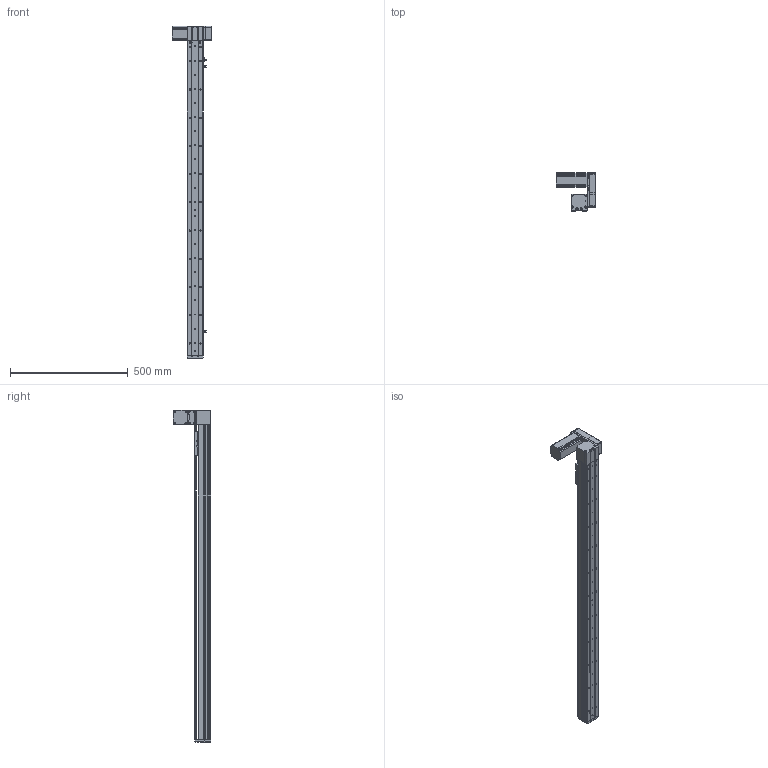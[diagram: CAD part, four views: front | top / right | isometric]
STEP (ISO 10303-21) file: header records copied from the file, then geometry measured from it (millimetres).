
FILE_DESCRIPTION (( 'STEP AP214' ), '1' );
FILE_NAME ('KSD68BS-S1150-MLU-CM.STEP', '2019-11-06T06:55:50', ( '微软用户' ), ( '微软中国' ), 'SwSTEP 2.0', 'SolidWorks 2014', '' );
FILE_SCHEMA (( 'AUTOMOTIVE_DESIGN' ));
Length unit declared in the file: millimetre
Products named in the file (11): 68宽单导轨半封闭同步带主动轮座左; 68单导轨同步带半封闭端板; KSD68BS 1150俴最裔啣圉猾敕; 覜茼え68遵圉猾敕; KSD68BS半封闭同步带传动导轨座; U倰嫖萇EEㄜSX672; 台达ECMA－C20604AS伺服电机（400W); KSD68BS 1150俴最菁啣圉猾敕; KSD68BS-S1150-MLU-CM; 悵誘欶奻狟殏; 68宽马达安装板连板上折同步带
Assembly tree (12 placements, depth 2):
  KSD68BS-S1150-MLU-CM
    KSD68BS 1150俴最菁啣圉猾敕
    台达ECMA－C20604AS伺服电机（400W)
    U倰嫖萇EEㄜSX672  x3
    KSD68BS半封闭同步带传动导轨座
    覜茼え68遵圉猾敕
    KSD68BS 1150俴最裔啣圉猾敕
    68单导轨同步带半封闭端板
    68宽单导轨半封闭同步带主动轮座左
    68宽马达安装板连板上折同步带
    悵誘欶奻狟殏
Bounding box: 167.2 x 159.5 x 1412 mm (x, y, z)
Volume: 2559387.4 mm3; surface area: 917847.5 mm2
Topology: 13 solids, 13 shells, 1472 faces, 4268 edges, 2778 vertices
Faces by surface type: cylinder 754, plane 635, cone 83
Entity records: 55702 total; most frequent: CARTESIAN_POINT 10918, ORIENTED_EDGE 7288, DIRECTION 7126, EDGE_CURVE 3644, AXIS2_PLACEMENT_3D 2562, VERTEX_POINT 2402, LINE 2002, VECTOR 2002
